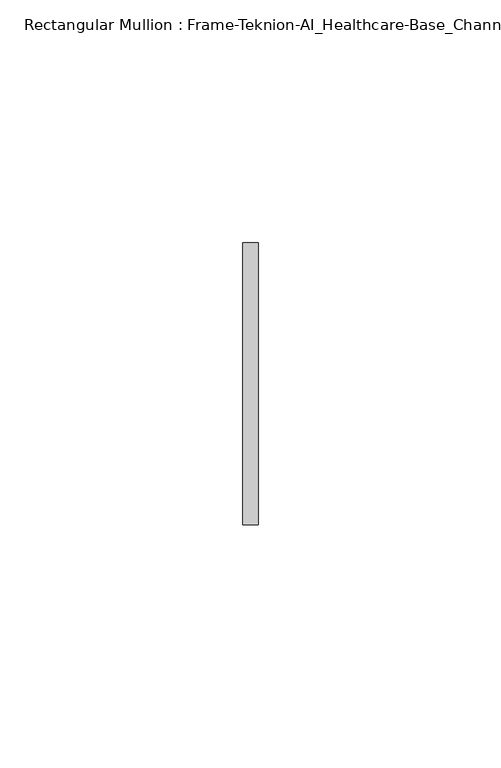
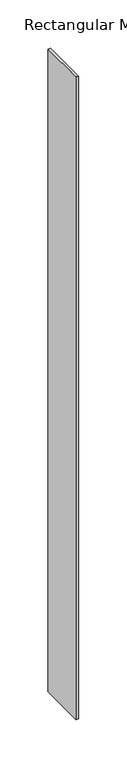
"""IFC4 building model written with IfcOpenShell, lengths in millimetres: member geometry, Rectangular Mullion : Frame-Teknion-AI_Healthcare-Base_Channel."""

import ifcopenshell
import ifcopenshell.guid

model = None  # the IFC model being written
_history = None  # IfcOwnerHistory: only IFC2X3 demands one
_inside = {}  # id of a spatial element -> (the spatial element, [elements in it])
_under = {}  # id of a project, library or spatial element -> (it, [spatial elements below it])
_declared = {}  # id of a project -> (the project, [libraries it declares])
_typed = {}  # id of a type object -> (the type object, [elements of that type])
_made_of = {}  # id of a material, layer set ... -> (it, [elements and type objects made of it])


def new_model(schema):
    """Start an empty IFC model of exactly this schema.

    Asked for "IFC4X3", IfcOpenShell would pick the latest addendum, in which some entities
    have other attributes; the version numbers below select the first issue.
    IFC2X3 requires an IfcOwnerHistory on every rooted entity: one is made here for all.
    """
    global model, _history
    if schema == "IFC4X3":
        model = ifcopenshell.file(schema_version=(4, 3, 0, 0))
    else:
        model = ifcopenshell.file(schema=schema)
    _inside.clear()
    _under.clear()
    _declared.clear()
    _typed.clear()
    _made_of.clear()
    _history = None
    if model.schema == "IFC2X3":
        org = make("IfcOrganization", Name="unknown")
        user = make(
            "IfcPersonAndOrganization",
            ThePerson=make("IfcPerson", FamilyName="unknown"),
            TheOrganization=org,
        )
        app = make(
            "IfcApplication",
            ApplicationDeveloper=org,
            Version="unknown",
            ApplicationFullName="unknown",
            ApplicationIdentifier="unknown",
        )
        _history = make(
            "IfcOwnerHistory",
            OwningUser=user,
            OwningApplication=app,
            ChangeAction="ADDED",
            CreationDate=0,
        )
    return model


def make(cls, **values):
    """One entity of the class cls with the attributes given. An attribute that is None is left unset."""
    return model.create_entity(
        cls, **{name: value for name, value in values.items() if value is not None}
    )


def rooted(cls, **values):
    """An entity with a GlobalId (a new one), such as an element, a storey or a relation."""
    return make(cls, GlobalId=ifcopenshell.guid.new(), OwnerHistory=_history, **values)


def si_unit(unit_type, name, prefix=None):
    """IfcSIUnit, for example si_unit("LENGTHUNIT", "METRE", prefix="MILLI")."""
    return make("IfcSIUnit", UnitType=unit_type, Prefix=prefix, Name=name)


def assignment(units):
    """IfcUnitAssignment: the units of a project."""
    return None if units is None else make("IfcUnitAssignment", Units=units)


def point(xyz):
    """IfcCartesianPoint."""
    return None if xyz is None else make("IfcCartesianPoint", Coordinates=xyz)


def direction(xyz):
    """IfcDirection."""
    return None if xyz is None else make("IfcDirection", DirectionRatios=xyz)


def frame(location, z_axis=None, x_axis=None):
    """IfcAxis2Placement3D, a coordinate frame: its origin and axes. An axis left out is left unset."""
    return make(
        "IfcAxis2Placement3D",
        Location=point(location),
        Axis=direction(z_axis),
        RefDirection=direction(x_axis),
    )


def origin():
    """The frame at (0, 0, 0) with its axes left unset."""
    return frame((0.0, 0.0, 0.0))


def place(relative_to, where):
    """IfcLocalPlacement: puts the frame where relative to a parent placement (None: the world)."""
    return make(
        "IfcLocalPlacement", PlacementRelTo=relative_to, RelativePlacement=where
    )


def context(
    kind, dimensions, precision=None, world=None, true_north=None, identifier=None
):
    """IfcGeometricRepresentationContext, for example the 3D "Model" context."""
    return make(
        "IfcGeometricRepresentationContext",
        ContextIdentifier=identifier,
        ContextType=kind,
        CoordinateSpaceDimension=dimensions,
        Precision=precision,
        WorldCoordinateSystem=world,
        TrueNorth=true_north,
    )


def project(units=None, contexts=None):
    """IfcProject with its units and contexts."""
    return rooted(
        "IfcProject",
        Name="project",
        RepresentationContexts=contexts,
        UnitsInContext=assignment(units),
    )


def spatial(cls, under=None, at=None, **own):
    """A site, building, storey or space (cls), placed at a placement, below another one or the project."""
    s = rooted(cls, ObjectPlacement=at, **own)
    if under is not None:
        _under.setdefault(under.id(), (under, []))[1].append(s)
    return s


def polyline(points):
    """IfcPolyline through the points."""
    return make("IfcPolyline", Points=[point(p) for p in points])


def outline(outer, holes=None, kind="AREA"):
    """IfcArbitraryClosedProfileDef: a profile drawn as a closed curve; with holes, ...WithVoids."""
    if holes is None:
        return make("IfcArbitraryClosedProfileDef", ProfileType=kind, OuterCurve=outer)
    return make(
        "IfcArbitraryProfileDefWithVoids",
        ProfileType=kind,
        OuterCurve=outer,
        InnerCurves=holes,
    )


def extrude(swept, where, along, depth):
    """IfcExtrudedAreaSolid: the profile swept, set in the frame where, extruded along a direction by depth."""
    return make(
        "IfcExtrudedAreaSolid",
        SweptArea=swept,
        Position=where,
        ExtrudedDirection=direction(along),
        Depth=depth,
    )


def shape(context_of_items, identifier, shape_type, items):
    """IfcShapeRepresentation: the items that make up one representation, for example the "Body"."""
    return make(
        "IfcShapeRepresentation",
        ContextOfItems=context_of_items,
        RepresentationIdentifier=identifier,
        RepresentationType=shape_type,
        Items=items,
    )


def source(mapping_origin, context_of_items, identifier, shape_type, items):
    """IfcRepresentationMap: a shape defined once, which mapped items show again and again."""
    return make(
        "IfcRepresentationMap",
        MappingOrigin=mapping_origin,
        MappedRepresentation=shape(context_of_items, identifier, shape_type, items),
    )


def transform(
    local_origin,
    x_axis=None,
    y_axis=None,
    z_axis=None,
    scale=None,
    scale2=None,
    scale3=None,
    uniform=True,
):
    """IfcCartesianTransformationOperator3D, or its non-uniform kind. x_axis, y_axis, z_axis: its Axis1, 2, 3."""
    if uniform:
        return make(
            "IfcCartesianTransformationOperator3D",
            Axis1=direction(x_axis),
            Axis2=direction(y_axis),
            LocalOrigin=point(local_origin),
            Scale=scale,
            Axis3=direction(z_axis),
        )
    return make(
        "IfcCartesianTransformationOperator3DnonUniform",
        Axis1=direction(x_axis),
        Axis2=direction(y_axis),
        LocalOrigin=point(local_origin),
        Scale=scale,
        Axis3=direction(z_axis),
        Scale2=scale2,
        Scale3=scale3,
    )


def mapped(mapping_source, mapping_target):
    """IfcMappedItem: shows the shape of a source again, moved by a transform."""
    return make(
        "IfcMappedItem", MappingSource=mapping_source, MappingTarget=mapping_target
    )


def made_of(thing, what):
    """Note that an element or type object is made of a material, layer set ...; save() writes the relation."""
    if what is not None:
        _made_of.setdefault(what.id(), (what, []))[1].append(thing)
    return thing


def element(
    cls,
    number,
    at=None,
    inside=None,
    cuts=None,
    type_object=None,
    material=None,
    context=None,
    identifier="Body",
    shape_type=None,
    held_by="IfcProductDefinitionShape",
    body=None,
    shapes=None,
    **own,
):
    """One element of the class cls, such as IfcWall. Its Tag is "e" and its number.

    at: its placement. inside: the storey or other place that contains it. cuts: it is an
    opening in that element (IfcRelVoidsElement). A single representation is given by context,
    identifier, shape_type and body (its items); several are given by shapes. held_by: the class
    of the entity that holds the representations. save() writes the other relations.
    """
    e = rooted(cls, Tag="e%d" % number, ObjectPlacement=at, **own)
    if body is not None:
        shapes = [shape(context, identifier, shape_type, body)]
    if shapes is not None:
        e.Representation = make(held_by, Representations=shapes)
    if inside is not None:
        _inside.setdefault(inside.id(), (inside, []))[1].append(e)
    if cuts is not None:
        rooted(
            "IfcRelVoidsElement", RelatingBuildingElement=cuts, RelatedOpeningElement=e
        )
    if type_object is not None:
        _typed.setdefault(type_object.id(), (type_object, []))[1].append(e)
    return made_of(e, material)


def aggregate(whole, parts):
    """IfcRelAggregates: a whole, such as a stair, and the parts it consists of."""
    return rooted("IfcRelAggregates", RelatingObject=whole, RelatedObjects=parts)


def save(model, path):
    """Write the relations noted so far, then the file.

    IfcRelAggregates (storeys below a building ...), IfcRelContainedInSpatialStructure (elements
    in a storey), IfcRelDefinesByType, IfcRelAssociatesMaterial and IfcRelDeclares: one each for
    every whole, place, type object, material and project.
    """
    for whole, parts in _under.values():
        aggregate(whole, parts)
    for where, things in _inside.values():
        rooted(
            "IfcRelContainedInSpatialStructure",
            RelatedElements=things,
            RelatingStructure=where,
        )
    for kind, things in _typed.values():
        rooted("IfcRelDefinesByType", RelatedObjects=things, RelatingType=kind)
    for what, things in _made_of.values():
        rooted("IfcRelAssociatesMaterial", RelatedObjects=things, RelatingMaterial=what)
    for by, libraries in _declared.values():
        rooted("IfcRelDeclares", RelatingContext=by, RelatedDefinitions=libraries)
    model.write(path)


def rectangular_mullion_frame_teknion_ai_healthcare_base_channel_8320a536(model_context):
    return source(origin(), model_context, "Body", "SweptSolid", [
        extrude(outline(polyline([(0.0, 29.0214844), (0.0, -29.0214844), (-3.175, -29.0214844), (-3.175, 29.0214844), (0.0, 29.0214844)])), frame((0.0, 0.0, -812.8), z_axis=(0.0, 0.0, 1.0), x_axis=(1.0, 0.0, 0.0)), (0.0, 0.0, 1.0), 812.8),
    ])


if __name__ == "__main__":
    model = new_model("IFC4")
    model_context = context("Model", 3, world=origin())
    ifc_project = project(units=[si_unit("LENGTHUNIT", "METRE", prefix="MILLI")], contexts=[model_context])
    site = spatial("IfcSite", under=ifc_project)
    building = spatial("IfcBuilding", under=site)
    placement = place(None, origin())
    rectangular_mullion_frame_teknion_ai_healthcare_base_channel_shape = rectangular_mullion_frame_teknion_ai_healthcare_base_channel_8320a536(model_context)
    element("IfcMember", 1, ObjectType="Rectangular Mullion : Frame-Teknion-AI_Healthcare-Base_Channel", at=placement, inside=building, context=model_context, shape_type="MappedRepresentation", body=[
        mapped(rectangular_mullion_frame_teknion_ai_healthcare_base_channel_shape, transform((0.0, 0.0, 0.0), x_axis=(1.0, 0.0, 0.0), y_axis=(0.0, 1.0, 0.0), z_axis=(0.0, 0.0, 1.0))),
    ])
    save(model, "model.ifc")
